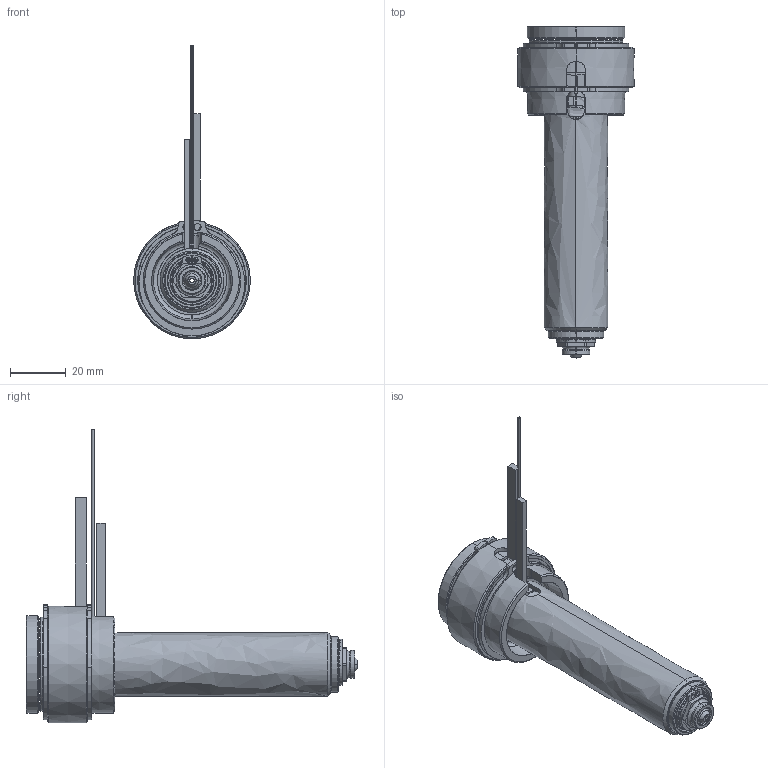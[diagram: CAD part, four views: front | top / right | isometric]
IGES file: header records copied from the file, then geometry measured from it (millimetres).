
Start section: SolidWorks IGES file using analytic representation for surfaces
Global section: file name: C:\Documents and Settings\ws-20\Desktop\TEM\UGER3552-S-A-0 [Øb-1.70  ØC-6.0].IGS; native system: SolidWorks 2012; preprocessor: SolidWorks 2012; author: ws-20; date: 120410.094611; units: millimetre
Bounding box: 42 x 119.4 x 105.6 mm (x, y, z)
Surface area: 37961.1 mm2 (no closed solid volume)
Topology: 0 solids, 0 shells, 209 faces, 3480 edges, 3480 vertices
Faces by surface type: revolution 136, bspline 73
